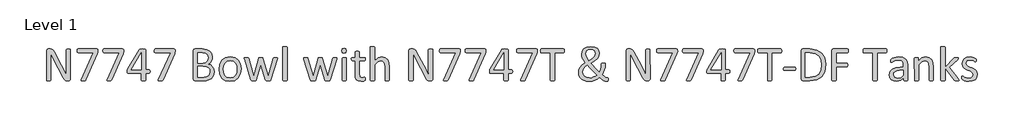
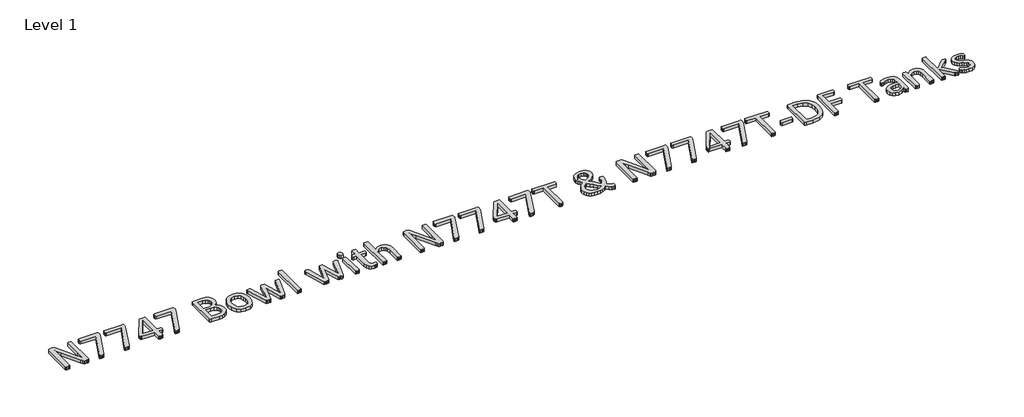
# One storey, part 1 of 3: 1 proxy.
"""IFC4 building model written with IfcOpenShell, lengths in millimetres."""

from ifc_helpers import new_model, si_unit, origin, origin_with_axes, place, context, project, spatial, polyline, outline, extrude, element, save

model = new_model("IFC4")

# Units and contexts
model_context = context("Model", 3, world=origin())
ifc_project = project(units=[si_unit("LENGTHUNIT", "METRE", prefix="MILLI")], contexts=[model_context])

# Site, building, storey
site = spatial("IfcSite", under=ifc_project)
building = spatial("IfcBuilding", under=site)
storey = spatial("IfcBuildingStorey", under=building, Name="Level 1", Elevation=0.0)

# Proxy
placement = place(None, origin())
element("IfcBuildingElementProxy", 1, Name="150MM CALIBRI", ObjectType="150MM CALIBRI", at=placement, inside=storey, context=model_context, shape_type="SweptSolid", body=[
    extrude(outline(polyline([(13422.4142778, -15617.8285664), (13421.6298259, -15621.7059998), (13419.5902511, -15624.3507231), (13416.7662245, -15625.8523881), (13413.6732429, -15626.3006463), (13407.0390216, -15626.3006463), (13401.5926845, -15625.6506719), (13397.1549284, -15623.2749034), (13392.9637143, -15618.5906053), (13388.5707839, -15611.1495192), (13344.1932224, -15526.697675), (13337.2003946, -15512.9809741), (13330.6109991, -15499.0401442), (13330.6109991, -15515.8946524), (13330.6109991, -15533.0181155), (13330.6109991, -15622.6249291), (13330.1179151, -15624.1714198), (13328.4593597, -15625.3144782), (13325.3887911, -15626.0092784), (13320.5251897, -15626.3006463), (13315.6391753, -15626.0092784), (13312.6134325, -15625.3144782), (13311.0221159, -15624.1714198), (13310.5290319, -15622.6249291), (13310.5290319, -15485.5923983), (13313.1737552, -15479.0702416), (13318.956286, -15477.1203184), (13328.8627921, -15477.1203184), (13334.7125616, -15477.7030541), (13338.9261886, -15479.5857385), (13342.5346671, -15483.2390428), (13346.1207327, -15489.1336381), (13380.1883556, -15554.3552057), (13386.2846671, -15566.0099188), (13391.9103075, -15577.1939608), (13397.2894059, -15588.0418092), (13402.5564397, -15598.777593), (13402.3995493, -15579.9507487), (13402.3323106, -15561.1239045), (13402.3323106, -15480.7960356), (13404.4839499, -15478.0840735), (13407.5545186, -15477.3444475), (13412.5525974, -15477.1203184), (13417.2593085, -15477.3444475), (13420.3298772, -15478.0840735), (13421.9211938, -15479.2943707), (13422.4142778, -15617.8285664)])), origin_with_axes(), (0.0, 0.0, 1.0), 15.0),
    extrude(outline(polyline([(13551.5126384, -15485.5475725), (13551.3333352, -15489.2681155), (13550.862664, -15492.4731616), (13550.0557993, -15495.4316657), (13548.8679151, -15498.4574086), (13494.9872798, -15621.8180643), (13493.5528536, -15624.0593553), (13491.3563884, -15625.4265428), (13487.9496261, -15626.121343), (13482.8843085, -15626.3006463), (13476.7431712, -15625.9644526), (13473.560538, -15624.86622), (13472.6864345, -15623.0283614), (13473.5157122, -15620.4284639), (13530.1307224, -15494.3334332), (13458.3645852, -15494.3334332), (13455.0698874, -15492.0473164), (13453.9716548, -15485.68205), (13454.2630227, -15481.8942682), (13455.1371261, -15479.2271319), (13456.5267265, -15477.6358153), (13458.3645852, -15477.1203184), (13545.5059786, -15477.1203184), (13548.3300052, -15477.456512), (13550.1902768, -15478.8236995), (13551.1764448, -15481.44601), (13551.5126384, -15485.5475725)])), origin_with_axes(), (0.0, 0.0, 1.0), 15.0),
    extrude(outline(polyline([(13672.0044417, -15485.5475725), (13671.8251384, -15489.2681155), (13671.3544673, -15492.4731616), (13670.5476026, -15495.4316657), (13669.3597184, -15498.4574086), (13615.4790831, -15621.8180643), (13614.0446569, -15624.0593553), (13611.8481917, -15625.4265428), (13608.4414294, -15626.121343), (13603.3761118, -15626.3006463), (13597.2349745, -15625.9644526), (13594.0523413, -15624.86622), (13593.1782378, -15623.0283614), (13594.0075155, -15620.4284639), (13650.6225257, -15494.3334332), (13578.8563884, -15494.3334332), (13575.5616907, -15492.0473164), (13574.4634581, -15485.68205), (13574.7548259, -15481.8942682), (13575.6289294, -15479.2271319), (13577.0185298, -15477.6358153), (13578.8563884, -15477.1203184), (13665.9977819, -15477.1203184), (13668.8218085, -15477.456512), (13670.68208, -15478.8236995), (13671.6682481, -15481.44601), (13672.0044417, -15485.5475725)])), origin_with_axes(), (0.0, 0.0, 1.0), 15.0),
    extrude(outline(polyline([(13796.4409171, -15583.2678594), (13795.2754458, -15589.565887), (13792.0479868, -15591.8744168), (13775.2831302, -15591.8744168), (13775.2831302, -15622.7594065), (13774.8124591, -15624.3283102), (13773.1314909, -15625.4041299), (13769.9936835, -15626.0765172), (13765.0628434, -15626.3006463), (13760.2664806, -15626.0765172), (13757.195912, -15625.4041299), (13755.6270083, -15624.3283102), (13755.201163, -15622.7594065), (13755.201163, -15591.8744168), (13694.4621774, -15591.8744168), (13692.1760606, -15591.5158102), (13690.5399181, -15590.1934485), (13689.5089243, -15587.4366606), (13689.2175565, -15582.7747754), (13689.329621, -15578.6956258), (13689.7778792, -15575.400928), (13690.6968085, -15572.5320756), (13692.0415831, -15569.5959844), (13744.9808761, -15480.6167323), (13746.6842573, -15479.0478286), (13749.5979356, -15477.9271832), (13753.9908659, -15477.2996217), (13760.1320032, -15477.1203184), (13766.9455278, -15477.4116862), (13771.6298259, -15478.1513123), (13774.341788, -15479.3391965), (13775.2831302, -15481.0649905), (13775.2831302, -15574.661302), (13792.0479868, -15574.661302), (13795.23062, -15576.7905284), (13796.4409171, -15583.2678594)]), holes=[polyline([(13755.201163, -15494.378259), (13707.237536, -15574.661302), (13755.201163, -15574.661302), (13755.201163, -15494.378259)])]), origin_with_axes(), (0.0, 0.0, 1.0), 15.0),
    extrude(outline(polyline([(13912.9880483, -15485.5475725), (13912.808745, -15489.2681155), (13912.3380739, -15492.4731616), (13911.5312091, -15495.4316657), (13910.3433249, -15498.4574086), (13856.4626897, -15621.8180643), (13855.0282634, -15624.0593553), (13852.8317983, -15625.4265428), (13849.425036, -15626.121343), (13844.3597184, -15626.3006463), (13838.2185811, -15625.9644526), (13835.0359479, -15624.86622), (13834.1618444, -15623.0283614), (13834.991122, -15620.4284639), (13891.6061323, -15494.3334332), (13819.839995, -15494.3334332), (13816.5452972, -15492.0473164), (13815.4470647, -15485.68205), (13815.7384325, -15481.8942682), (13816.612536, -15479.2271319), (13818.0021364, -15477.6358153), (13819.839995, -15477.1203184), (13906.9813884, -15477.1203184), (13909.8054151, -15477.456512), (13911.6656866, -15478.8236995), (13912.6518546, -15481.44601), (13912.9880483, -15485.5475725)])), origin_with_axes(), (0.0, 0.0, 1.0), 15.0),
    extrude(outline(polyline([(14096.5946056, -15584.11955), (14094.8239858, -15596.8949086), (14089.8483198, -15607.4289762), (14082.1382788, -15615.6096883), (14071.9628177, -15621.5266965), (14059.8374335, -15625.112762), (14045.044913, -15626.3006463), (14006.3602306, -15626.3006463), (14001.4069776, -15624.5076135), (13999.053622, -15618.2319987), (13999.053622, -15485.1889659), (14001.4293905, -15478.9133512), (14006.4498823, -15477.1203184), (14040.338202, -15477.1203184), (14062.2804407, -15479.697803), (14076.5126384, -15487.1837149), (14085.0967829, -15499.2418604), (14087.9880483, -15515.4015684), (14086.7105124, -15525.689094), (14082.9675565, -15534.7663225), (14076.7367675, -15542.2074086), (14068.1302102, -15547.5865069), (14079.2470134, -15551.7328952), (14088.2570032, -15559.4205233), (14094.3533147, -15570.3356104), (14096.5946056, -15584.11955)]), holes=[polyline([(14067.9060811, -15518.0911176), (14066.4044161, -15508.1846114), (14061.697705, -15500.6762866), (14053.3152768, -15495.9695756), (14039.6209888, -15494.3334332), (14019.1355893, -15494.3334332), (14019.1355893, -15543.103925), (14041.6829765, -15543.103925), (14054.0997286, -15541.0643502), (14061.9218341, -15535.5956002), (14066.4716548, -15527.5717784), (14067.9060811, -15518.0911176)]), polyline([(14076.5126384, -15584.2988532), (14074.4058249, -15572.7337918), (14068.2422747, -15564.3513635), (14058.0668136, -15559.1963942), (14042.6691446, -15557.4481873), (14019.1355893, -15557.4481873), (14019.1355893, -15609.0875315), (14047.6896364, -15609.0875315), (14059.478827, -15607.4962149), (14068.3319263, -15602.7895039), (14074.3385862, -15595.034637), (14076.5126384, -15584.2988532)])]), origin_with_axes(), (0.0, 0.0, 1.0), 15.0),
    extrude(outline(polyline([(14222.8241138, -15570.6718041), (14219.5070032, -15594.1829465), (14209.5780841, -15612.69601), (14193.0373567, -15624.8213942), (14170.0192983, -15629.1694987), (14147.8305175, -15625.3368911), (14132.051829, -15614.197675), (14122.6384069, -15596.4466504), (14119.5454253, -15572.7786176), (14122.8177102, -15549.2674752), (14132.6793905, -15530.7768245), (14149.1528792, -15518.7186791), (14172.2157634, -15514.4154004), (14194.4269571, -15518.2480079), (14210.2056456, -15529.3872241), (14219.6638936, -15547.1382487), (14222.8241138, -15570.6718041)]), holes=[polyline([(14202.7421466, -15572.0165786), (14201.1956559, -15556.4396063), (14196.1079253, -15543.5745961), (14186.5376128, -15534.8335612), (14171.4537245, -15531.6285151), (14157.1318751, -15534.5646063), (14147.2701948, -15542.8573829), (14141.510077, -15555.5430899), (14139.6273925, -15571.5683204), (14141.1738833, -15587.2349444), (14146.3064397, -15600.0551289), (14155.9439909, -15608.7513379), (14171.0054663, -15611.956384), (14185.2824899, -15609.0202928), (14195.2114089, -15600.7947549), (14200.9267009, -15588.1538737), (14202.7421466, -15572.0165786)])]), origin_with_axes(), (0.0, 0.0, 1.0), 15.0),
    extrude(outline(polyline([(14393.2967061, -15520.5565377), (14393.072577, -15522.5064608), (14392.2657122, -15525.3080745), (14361.8289806, -15622.2214967), (14360.7307481, -15624.2610715), (14358.6687604, -15625.4937815), (14355.0602819, -15626.121343), (14349.322577, -15626.3006463), (14343.33833, -15626.0765172), (14339.5057224, -15625.4041299), (14337.376496, -15624.1938327), (14336.3230893, -15622.3111483), (14314.6273925, -15549.8277979), (14294.2764704, -15622.3111483), (14293.2006507, -15624.3058973), (14290.9593597, -15625.5386073), (14287.1267522, -15626.1437559), (14281.3218085, -15626.3006463), (14275.494452, -15626.0765172), (14271.8187347, -15625.4041299), (14269.7119212, -15624.1490069), (14268.6809274, -15622.2214967), (14238.4683249, -15525.3080745), (14237.6614602, -15522.5064608), (14237.4373311, -15520.5565377), (14237.8855893, -15518.9428082), (14239.43208, -15517.9118143), (14242.3681712, -15517.3963174), (14246.8507532, -15517.2842528), (14252.0281354, -15517.4635561), (14255.0090524, -15518.0238789), (14256.4883044, -15519.1445243), (14257.2951692, -15520.9151442), (14282.2183249, -15605.1876852), (14305.5277511, -15520.9151442), (14306.312203, -15519.1445243), (14307.8586938, -15518.0238789), (14310.6603075, -15517.4635561), (14315.0756507, -15517.2842528), (14319.6254714, -15517.4635561), (14322.4270852, -15518.0238789), (14323.9287501, -15519.0996985), (14324.6235503, -15520.6910151), (14349.322577, -15605.1876852), (14374.2457327, -15520.9151442), (14374.9853587, -15519.1445243), (14376.5990882, -15518.0238789), (14379.5800052, -15517.4635561), (14384.4660196, -15517.2842528), (14388.8813628, -15517.3963174), (14391.5260862, -15517.9566401), (14392.8932737, -15518.987634), (14393.2967061, -15520.5565377)])), origin_with_axes(), (0.0, 0.0, 1.0), 15.0),
    extrude(outline(polyline([(14437.9880483, -15622.7594065), (14437.4949643, -15624.2834844), (14435.9036477, -15625.381717), (14432.8779048, -15626.0765172), (14427.9022388, -15626.3006463), (14423.0162245, -15626.0765172), (14419.9232429, -15625.381717), (14418.3319263, -15624.2834844), (14418.3319263, -15469.3206258), (14418.3319263, -15467.7068963), (14419.9232429, -15466.5638379), (14423.0162245, -15465.8690377), (14427.9022388, -15465.6449086), (14432.8779048, -15465.8690377), (14435.9036477, -15466.5638379), (14437.4949643, -15467.7068963), (14437.9880483, -15469.3206258), (14437.9880483, -15622.7594065)])), origin_with_axes(), (0.0, 0.0, 1.0), 15.0),
    extrude(outline(polyline([(14671.5753946, -15520.5565377), (14671.3512655, -15522.5064608), (14670.5444007, -15525.3080745), (14640.1076692, -15622.2214967), (14639.0094366, -15624.2610715), (14636.9474489, -15625.4937815), (14633.3389704, -15626.121343), (14627.6012655, -15626.3006463), (14621.6170186, -15626.0765172), (14617.784411, -15625.4041299), (14615.6551845, -15624.1938327), (14614.6017778, -15622.3111483), (14592.9060811, -15549.8277979), (14572.5551589, -15622.3111483), (14571.4793393, -15624.3058973), (14569.2380483, -15625.5386073), (14565.4054407, -15626.1437559), (14559.600497, -15626.3006463), (14553.7731405, -15626.0765172), (14550.0974233, -15625.4041299), (14547.9906097, -15624.1490069), (14546.9596159, -15622.2214967), (14516.7470134, -15525.3080745), (14515.9401487, -15522.5064608), (14515.7160196, -15520.5565377), (14516.1642778, -15518.9428082), (14517.7107686, -15517.9118143), (14520.6468597, -15517.3963174), (14525.1294417, -15517.2842528), (14530.3068239, -15517.4635561), (14533.2877409, -15518.0238789), (14534.7669929, -15519.1445243), (14535.5738577, -15520.9151442), (14560.4970134, -15605.1876852), (14583.8064397, -15520.9151442), (14584.5908915, -15519.1445243), (14586.1373823, -15518.0238789), (14588.938996, -15517.4635561), (14593.3543393, -15517.2842528), (14597.9041599, -15517.4635561), (14600.7057737, -15518.0238789), (14602.2074386, -15519.0996985), (14602.9022388, -15520.6910151), (14627.6012655, -15605.1876852), (14652.5244212, -15520.9151442), (14653.2640472, -15519.1445243), (14654.8777768, -15518.0238789), (14657.8586938, -15517.4635561), (14662.7447081, -15517.2842528), (14667.1600513, -15517.3963174), (14669.8047747, -15517.9566401), (14671.1719622, -15518.987634), (14671.5753946, -15520.5565377)])), origin_with_axes(), (0.0, 0.0, 1.0), 15.0),
    extrude(outline(polyline([(14716.2667368, -15485.5923983), (14713.8013167, -15494.7592784), (14704.6568495, -15497.2022856), (14695.7365114, -15494.8265172), (14693.3159171, -15485.8613532), (14695.7813372, -15476.6944731), (14704.9258044, -15474.2514659), (14713.8461425, -15476.6272344), (14716.2667368, -15485.5923983)])), origin_with_axes(), (0.0, 0.0, 1.0), 15.0),
    extrude(outline(polyline([(14716.2667368, -15622.8042323), (14715.7736528, -15624.3283102), (14714.1823362, -15625.4041299), (14711.1565934, -15626.0765172), (14706.1809274, -15626.3006463), (14701.294913, -15626.0765172), (14698.2019315, -15625.4041299), (14696.6106149, -15624.3283102), (14696.1847696, -15520.7806668), (14698.2019315, -15518.1807692), (14701.294913, -15517.5083819), (14706.1809274, -15517.2842528), (14711.1565934, -15517.5083819), (14714.1823362, -15518.1807692), (14715.7736528, -15519.3238276), (14716.2667368, -15622.8042323)])), origin_with_axes(), (0.0, 0.0, 1.0), 15.0),
    extrude(outline(polyline([(14805.201163, -15615.9907077), (14804.7529048, -15621.5939352), (14803.3857173, -15624.6420909), (14800.6513423, -15626.4799495), (14796.504954, -15627.8919629), (14791.5517009, -15628.8108922), (14786.3294929, -15629.1694987), (14772.6800309, -15626.9954465), (14763.3786733, -15620.4284639), (14758.0892265, -15609.2892477), (14756.4306712, -15593.3536688), (14756.4306712, -15531.6285151), (14742.803622, -15531.6285151), (14740.1813116, -15529.9475469), (14739.2175565, -15524.5012098), (14739.4865114, -15521.1616862), (14740.1813116, -15518.8979823), (14741.32437, -15517.6428594), (14742.8932737, -15517.2842528), (14756.4306712, -15517.2842528), (14756.4306712, -15492.3162713), (14758.4478331, -15489.5818963), (14761.5408147, -15488.8198573), (14766.426829, -15488.5957282), (14771.402495, -15488.8198573), (14774.4282378, -15489.5818963), (14776.0195544, -15490.8146063), (14776.5126384, -15517.2842528), (14801.6150974, -15517.2842528), (14804.2598208, -15518.8979823), (14804.9770339, -15521.1616862), (14805.201163, -15524.5012098), (14804.214995, -15529.9475469), (14801.6150974, -15531.6285151), (14776.5126384, -15531.6285151), (14776.5126384, -15590.081384), (14779.4935554, -15606.4203952), (14783.6567534, -15610.5723868), (14790.1845134, -15611.956384), (14794.6446825, -15611.440887), (14798.1186835, -15610.3650674), (14800.740994, -15609.2668348), (14802.6909171, -15608.728925), (14804.9770339, -15612.3598164), (14805.201163, -15615.9907077)])), origin_with_axes(), (0.0, 0.0, 1.0), 15.0),
    extrude(outline(polyline([(14917.0864089, -15622.7594065), (14916.5933249, -15624.2834844), (14915.0020083, -15625.381717), (14911.9762655, -15626.0765172), (14907.0902511, -15626.3006463), (14902.1145852, -15626.0765172), (14899.0888423, -15625.4041299), (14897.4975257, -15624.3283102), (14897.0044417, -15622.7594065), (14897.0044417, -15562.8721114), (14895.68208, -15548.7968041), (14891.8494724, -15539.5850981), (14885.3273157, -15533.6680899), (14876.0707839, -15531.6285151), (14862.4661477, -15536.626594), (14848.2339499, -15551.30705), (14848.2339499, -15622.7594065), (14847.7408659, -15624.3283102), (14846.1495493, -15625.4041299), (14843.1238065, -15626.0765172), (14838.1481405, -15626.3006463), (14833.2621261, -15626.0765172), (14830.1691446, -15625.381717), (14828.577828, -15624.2834844), (14828.577828, -15469.3206258), (14828.577828, -15467.7068963), (14830.1691446, -15466.5638379), (14833.2621261, -15465.8690377), (14838.1481405, -15465.6449086), (14843.1238065, -15465.8690377), (14846.1495493, -15466.5638379), (14847.7408659, -15467.7293092), (14848.2339499, -15469.3206258), (14848.2339499, -15531.3595602), (14864.371245, -15518.5842016), (14880.7326692, -15514.4154004), (14897.8561323, -15517.9118143), (14909.0850001, -15527.2579977), (14915.2261374, -15540.9522856), (14917.0864089, -15559.9136073), (14917.0864089, -15622.7594065)])), origin_with_axes(), (0.0, 0.0, 1.0), 15.0),
    extrude(outline(polyline([(15120.7749335, -15617.8285664), (15119.9904817, -15621.7059998), (15117.9509069, -15624.3507231), (15115.1268802, -15625.8523881), (15112.0338987, -15626.3006463), (15105.3996774, -15626.3006463), (15099.9533403, -15625.6506719), (15095.5155841, -15623.2749034), (15091.32437, -15618.5906053), (15086.9314397, -15611.1495192), (15042.5538782, -15526.697675), (15035.5610503, -15512.9809741), (15028.9716548, -15499.0401442), (15028.9716548, -15515.8946524), (15028.9716548, -15533.0181155), (15028.9716548, -15622.6249291), (15028.4785708, -15624.1714198), (15026.8200155, -15625.3144782), (15023.7494468, -15626.0092784), (15018.8858454, -15626.3006463), (15013.9998311, -15626.0092784), (15010.9740882, -15625.3144782), (15009.3827716, -15624.1714198), (15008.8896876, -15622.6249291), (15008.8896876, -15485.5923983), (15011.534411, -15479.0702416), (15017.3169417, -15477.1203184), (15027.2234479, -15477.1203184), (15033.0732173, -15477.7030541), (15037.2868444, -15479.5857385), (15040.8953229, -15483.2390428), (15044.4813884, -15489.1336381), (15078.5490114, -15554.3552057), (15084.6453229, -15566.0099188), (15090.2709632, -15577.1939608), (15095.6500616, -15588.0418092), (15100.9170954, -15598.777593), (15100.760205, -15579.9507487), (15100.6929663, -15561.1239045), (15100.6929663, -15480.7960356), (15102.8446056, -15478.0840735), (15105.9151743, -15477.3444475), (15110.9132532, -15477.1203184), (15115.6199643, -15477.3444475), (15118.6905329, -15478.0840735), (15120.2818495, -15479.2943707), (15120.7749335, -15617.8285664)])), origin_with_axes(), (0.0, 0.0, 1.0), 15.0),
    extrude(outline(polyline([(15249.8732942, -15485.5475725), (15249.6939909, -15489.2681155), (15249.2233198, -15492.4731616), (15248.416455, -15495.4316657), (15247.2285708, -15498.4574086), (15193.3479356, -15621.8180643), (15191.9135093, -15624.0593553), (15189.7170442, -15625.4265428), (15186.3102819, -15626.121343), (15181.2449643, -15626.3006463), (15175.103827, -15625.9644526), (15171.9211938, -15624.86622), (15171.0470903, -15623.0283614), (15171.8763679, -15620.4284639), (15228.4913782, -15494.3334332), (15156.7252409, -15494.3334332), (15153.4305431, -15492.0473164), (15152.3323106, -15485.68205), (15152.6236784, -15481.8942682), (15153.4977819, -15479.2271319), (15154.8873823, -15477.6358153), (15156.7252409, -15477.1203184), (15243.8666343, -15477.1203184), (15246.690661, -15477.456512), (15248.5509325, -15478.8236995), (15249.5371005, -15481.44601), (15249.8732942, -15485.5475725)])), origin_with_axes(), (0.0, 0.0, 1.0), 15.0),
    extrude(outline(polyline([(15370.3650974, -15485.5475725), (15370.1857942, -15489.2681155), (15369.7151231, -15492.4731616), (15368.9082583, -15495.4316657), (15367.7203741, -15498.4574086), (15313.8397388, -15621.8180643), (15312.4053126, -15624.0593553), (15310.2088474, -15625.4265428), (15306.8020852, -15626.121343), (15301.7367675, -15626.3006463), (15295.5956302, -15625.9644526), (15292.412997, -15624.86622), (15291.5388936, -15623.0283614), (15292.3681712, -15620.4284639), (15348.9831815, -15494.3334332), (15277.2170442, -15494.3334332), (15273.9223464, -15492.0473164), (15272.8241138, -15485.68205), (15273.1154817, -15481.8942682), (15273.9895852, -15479.2271319), (15275.3791856, -15477.6358153), (15277.2170442, -15477.1203184), (15364.3584376, -15477.1203184), (15367.1824643, -15477.456512), (15369.0427358, -15478.8236995), (15370.0289038, -15481.44601), (15370.3650974, -15485.5475725)])), origin_with_axes(), (0.0, 0.0, 1.0), 15.0),
    extrude(outline(polyline([(15494.8015729, -15583.2678594), (15493.6361015, -15589.565887), (15490.4086425, -15591.8744168), (15473.643786, -15591.8744168), (15473.643786, -15622.7594065), (15473.1731149, -15624.3283102), (15471.4921466, -15625.4041299), (15468.3543393, -15626.0765172), (15463.4234991, -15626.3006463), (15458.6271364, -15626.0765172), (15455.5565677, -15625.4041299), (15453.987664, -15624.3283102), (15453.5618188, -15622.7594065), (15453.5618188, -15591.8744168), (15392.8228331, -15591.8744168), (15390.5367163, -15591.5158102), (15388.9005739, -15590.1934485), (15387.86958, -15587.4366606), (15387.5782122, -15582.7747754), (15387.6902768, -15578.6956258), (15388.1385349, -15575.400928), (15389.0574643, -15572.5320756), (15390.4022388, -15569.5959844), (15443.3415319, -15480.6167323), (15445.044913, -15479.0478286), (15447.9585913, -15477.9271832), (15452.3515216, -15477.2996217), (15458.4926589, -15477.1203184), (15465.3061835, -15477.4116862), (15469.9904817, -15478.1513123), (15472.7024438, -15479.3391965), (15473.643786, -15481.0649905), (15473.643786, -15574.661302), (15490.4086425, -15574.661302), (15493.5912757, -15576.7905284), (15494.8015729, -15583.2678594)]), holes=[polyline([(15453.5618188, -15494.378259), (15405.5981917, -15574.661302), (15453.5618188, -15574.661302), (15453.5618188, -15494.378259)])]), origin_with_axes(), (0.0, 0.0, 1.0), 15.0),
    extrude(outline(polyline([(15611.348704, -15485.5475725), (15611.1694007, -15489.2681155), (15610.6987296, -15492.4731616), (15609.8918649, -15495.4316657), (15608.7039806, -15498.4574086), (15554.8233454, -15621.8180643), (15553.3889192, -15624.0593553), (15551.192454, -15625.4265428), (15547.7856917, -15626.121343), (15542.7203741, -15626.3006463), (15536.5792368, -15625.9644526), (15533.3966036, -15624.86622), (15532.5225001, -15623.0283614), (15533.3517778, -15620.4284639), (15589.966788, -15494.3334332), (15518.2006507, -15494.3334332), (15514.905953, -15492.0473164), (15513.8077204, -15485.68205), (15514.0990882, -15481.8942682), (15514.9731917, -15479.2271319), (15516.3627921, -15477.6358153), (15518.2006507, -15477.1203184), (15605.3420442, -15477.1203184), (15608.1660708, -15477.456512), (15610.0263423, -15478.8236995), (15611.0125104, -15481.44601), (15611.348704, -15485.5475725)])), origin_with_axes(), (0.0, 0.0, 1.0), 15.0),
    extrude(outline(polyline([(15737.5782122, -15485.8613532), (15737.3540831, -15489.7387866), (15736.6144571, -15492.38351), (15735.3369212, -15493.862762), (15733.6783659, -15494.3334332), (15691.6765729, -15494.3334332), (15691.6765729, -15622.6249291), (15691.2059018, -15624.2386586), (15689.5697593, -15625.3144782), (15686.4767778, -15626.0092784), (15681.6355893, -15626.3006463), (15676.8392265, -15626.0092784), (15673.7014192, -15625.3144782), (15672.0652768, -15624.2386586), (15671.5946056, -15622.6249291), (15671.5946056, -15494.3334332), (15629.5928126, -15494.3334332), (15627.9342573, -15493.862762), (15626.7239602, -15492.38351), (15625.9843341, -15489.7387866), (15625.6929663, -15485.8613532), (15625.9843341, -15481.8942682), (15626.7463731, -15479.1150674), (15627.9566702, -15477.5909895), (15629.6376384, -15477.1203184), (15733.6335401, -15477.1203184), (15735.3145083, -15477.5909895), (15736.5920442, -15479.1150674), (15737.3540831, -15481.8942682), (15737.5782122, -15485.8613532)])), origin_with_axes(), (0.0, 0.0, 1.0), 15.0),
    extrude(outline(polyline([(15804.503161, -15586.3608409), (15806.228955, -15573.921676), (15811.6304663, -15562.491092), (15821.2231917, -15551.7553082), (15835.5226282, -15541.3108922), (15827.6332839, -15529.6561791), (15822.2317727, -15519.8841504), (15819.1836169, -15511.2327672), (15818.2646876, -15502.9399905), (15820.6852819, -15488.8198573), (15828.4401487, -15476.9186022), (15842.1568495, -15468.6930643), (15862.5077716, -15465.6449086), (15880.0122542, -15467.9086125), (15892.3169417, -15474.3411176), (15899.6683761, -15484.426927), (15902.1337962, -15497.605718), (15899.959744, -15510.4707282), (15892.9445032, -15521.7892477), (15880.5949899, -15532.7043348), (15862.3732942, -15544.090093), (15870.867787, -15554.2655541), (15880.4605124, -15564.9340991), (15890.7032122, -15575.4905797), (15900.9683249, -15585.4194987), (15905.1371261, -15578.2921934), (15908.3421722, -15569.8649393), (15910.4041599, -15560.7877108), (15911.0989602, -15551.4415274), (15911.0989602, -15547.2727262), (15911.5023925, -15545.3676289), (15912.8247542, -15544.090093), (15915.5143034, -15543.3280541), (15920.1537757, -15543.103925), (15924.4794673, -15543.2159895), (15927.3931456, -15543.7314864), (15929.0517009, -15545.0090223), (15929.5671979, -15547.4072036), (15929.5671979, -15550.3208819), (15928.4913782, -15563.1186534), (15925.5104612, -15575.400928), (15920.8037501, -15586.853925), (15914.5505483, -15596.9845602), (15923.560538, -15604.1118655), (15930.1051077, -15608.7513379), (15934.5876897, -15611.2391709), (15937.5013679, -15611.956384), (15939.6978331, -15611.8443194), (15941.3563884, -15612.202926), (15942.3201436, -15614.1304362), (15942.6563372, -15618.5906053), (15942.5442727, -15623.386968), (15942.1632532, -15626.0989301), (15941.1994981, -15627.6230079), (15938.6668393, -15628.6988276), (15933.8256507, -15629.1694987), (15928.782746, -15628.3402211), (15922.3502409, -15625.4041299), (15913.7885093, -15619.6888379), (15902.3579253, -15610.5667836), (15892.1824643, -15618.0751084), (15880.819119, -15623.9921166), (15868.1782378, -15627.8023112), (15853.9012143, -15629.1694987), (15840.1621005, -15627.86955), (15828.1711938, -15624.1041811), (15818.2871005, -15617.9630438), (15810.8684274, -15609.5806155), (15806.1617163, -15599.024135), (15804.503161, -15586.3608409)]), holes=[polyline([(15838.3914806, -15500.2504414), (15839.2431712, -15507.0639659), (15841.8878946, -15514.2809229), (15846.258412, -15522.3719834), (15852.3771364, -15532.0319475), (15866.4524438, -15522.708177), (15875.596911, -15514.4826391), (15880.5949899, -15506.5708819), (15882.1414806, -15498.1436278), (15880.9311835, -15491.2852774), (15877.076163, -15485.4803338), (15870.4195288, -15481.4684229), (15860.7595647, -15479.9891709), (15850.5168649, -15481.6477262), (15843.6136886, -15486.1078952), (15839.6466036, -15492.6076391), (15838.3914806, -15500.2504414)]), polyline([(15825.0333864, -15584.0747241), (15827.0505483, -15595.303592), (15832.9675565, -15604.1118655), (15842.7395852, -15609.8943963), (15856.2769827, -15611.956384), (15865.4886886, -15610.9926289), (15874.0280073, -15608.3479055), (15881.7828741, -15604.3359946), (15888.5963987, -15599.3603286), (15876.6727306, -15588.2211125), (15865.2421466, -15576.6112252), (15854.6184274, -15564.978925), (15845.2498311, -15553.7276442), (15835.6795186, -15561.2135561), (15829.4935554, -15568.6546422), (15826.0867931, -15576.162967), (15825.0333864, -15584.0747241)])]), origin_with_axes(), (0.0, 0.0, 1.0), 15.0),
    extrude(outline(polyline([(16139.2175565, -15617.8285664), (16138.4331046, -15621.7059998), (16136.3935298, -15624.3507231), (16133.5695032, -15625.8523881), (16130.4765216, -15626.3006463), (16123.8423003, -15626.3006463), (16118.3959632, -15625.6506719), (16113.9582071, -15623.2749034), (16109.7669929, -15618.5906053), (16105.3740626, -15611.1495192), (16060.9965011, -15526.697675), (16054.0036733, -15512.9809741), (16047.4142778, -15499.0401442), (16047.4142778, -15515.8946524), (16047.4142778, -15533.0181155), (16047.4142778, -15622.6249291), (16046.9211938, -15624.1714198), (16045.2626384, -15625.3144782), (16042.1920698, -15626.0092784), (16037.3284684, -15626.3006463), (16032.442454, -15626.0092784), (16029.4167112, -15625.3144782), (16027.8253946, -15624.1714198), (16027.3323106, -15622.6249291), (16027.3323106, -15485.5923983), (16029.9770339, -15479.0702416), (16035.7595647, -15477.1203184), (16045.6660708, -15477.1203184), (16051.5158403, -15477.7030541), (16055.7294673, -15479.5857385), (16059.3379458, -15483.2390428), (16062.9240114, -15489.1336381), (16096.9916343, -15554.3552057), (16103.0879458, -15566.0099188), (16108.7135862, -15577.1939608), (16114.0926845, -15588.0418092), (16119.3597184, -15598.777593), (16119.202828, -15579.9507487), (16119.1355893, -15561.1239045), (16119.1355893, -15480.7960356), (16121.2872286, -15478.0840735), (16124.3577972, -15477.3444475), (16129.3558761, -15477.1203184), (16134.0625872, -15477.3444475), (16137.1331559, -15478.0840735), (16138.7244724, -15479.2943707), (16139.2175565, -15617.8285664)])), origin_with_axes(), (0.0, 0.0, 1.0), 15.0),
    extrude(outline(polyline([(16268.3159171, -15485.5475725), (16268.1366138, -15489.2681155), (16267.6659427, -15492.4731616), (16266.859078, -15495.4316657), (16265.6711938, -15498.4574086), (16211.7905585, -15621.8180643), (16210.3561323, -15624.0593553), (16208.1596671, -15625.4265428), (16204.7529048, -15626.121343), (16199.6875872, -15626.3006463), (16193.5464499, -15625.9644526), (16190.3638167, -15624.86622), (16189.4897132, -15623.0283614), (16190.3189909, -15620.4284639), (16246.9340011, -15494.3334332), (16175.1678638, -15494.3334332), (16171.8731661, -15492.0473164), (16170.7749335, -15485.68205), (16171.0663013, -15481.8942682), (16171.9404048, -15479.2271319), (16173.3300052, -15477.6358153), (16175.1678638, -15477.1203184), (16262.3092573, -15477.1203184), (16265.1332839, -15477.456512), (16266.9935554, -15478.8236995), (16267.9797235, -15481.44601), (16268.3159171, -15485.5475725)])), origin_with_axes(), (0.0, 0.0, 1.0), 15.0),
    extrude(outline(polyline([(16388.8077204, -15485.5475725), (16388.6284171, -15489.2681155), (16388.157746, -15492.4731616), (16387.3508813, -15495.4316657), (16386.162997, -15498.4574086), (16332.2823618, -15621.8180643), (16330.8479356, -15624.0593553), (16328.6514704, -15625.4265428), (16325.2447081, -15626.121343), (16320.1793905, -15626.3006463), (16314.0382532, -15625.9644526), (16310.85562, -15624.86622), (16309.9815165, -15623.0283614), (16310.8107942, -15620.4284639), (16367.4258044, -15494.3334332), (16295.6596671, -15494.3334332), (16292.3649694, -15492.0473164), (16291.2667368, -15485.68205), (16291.5581046, -15481.8942682), (16292.4322081, -15479.2271319), (16293.8218085, -15477.6358153), (16295.6596671, -15477.1203184), (16382.8010606, -15477.1203184), (16385.6250872, -15477.456512), (16387.4853587, -15478.8236995), (16388.4715268, -15481.44601), (16388.8077204, -15485.5475725)])), origin_with_axes(), (0.0, 0.0, 1.0), 15.0),
    extrude(outline(polyline([(16513.2441958, -15583.2678594), (16512.0787245, -15589.565887), (16508.8512655, -15591.8744168), (16492.0864089, -15591.8744168), (16492.0864089, -15622.7594065), (16491.6157378, -15624.3283102), (16489.9347696, -15625.4041299), (16486.7969622, -15626.0765172), (16481.866122, -15626.3006463), (16477.0697593, -15626.0765172), (16473.9991907, -15625.4041299), (16472.430287, -15624.3283102), (16472.0044417, -15622.7594065), (16472.0044417, -15591.8744168), (16411.2654561, -15591.8744168), (16408.9793393, -15591.5158102), (16407.3431968, -15590.1934485), (16406.312203, -15587.4366606), (16406.0208352, -15582.7747754), (16406.1328997, -15578.6956258), (16406.5811579, -15575.400928), (16407.5000872, -15572.5320756), (16408.8448618, -15569.5959844), (16461.7841548, -15480.6167323), (16463.487536, -15479.0478286), (16466.4012143, -15477.9271832), (16470.7941446, -15477.2996217), (16476.9352819, -15477.1203184), (16483.7488065, -15477.4116862), (16488.4331046, -15478.1513123), (16491.1450667, -15479.3391965), (16492.0864089, -15481.0649905), (16492.0864089, -15574.661302), (16508.8512655, -15574.661302), (16512.0338987, -15576.7905284), (16513.2441958, -15583.2678594)]), holes=[polyline([(16472.0044417, -15494.378259), (16424.0408147, -15574.661302), (16472.0044417, -15574.661302), (16472.0044417, -15494.378259)])]), origin_with_axes(), (0.0, 0.0, 1.0), 15.0),
    extrude(outline(polyline([(16629.791327, -15485.5475725), (16629.6120237, -15489.2681155), (16629.1413526, -15492.4731616), (16628.3344878, -15495.4316657), (16627.1466036, -15498.4574086), (16573.2659684, -15621.8180643), (16571.8315421, -15624.0593553), (16569.635077, -15625.4265428), (16566.2283147, -15626.121343), (16561.162997, -15626.3006463), (16555.0218597, -15625.9644526), (16551.8392265, -15624.86622), (16550.9651231, -15623.0283614), (16551.7944007, -15620.4284639), (16608.409411, -15494.3334332), (16536.6432737, -15494.3334332), (16533.3485759, -15492.0473164), (16532.2503434, -15485.68205), (16532.5417112, -15481.8942682), (16533.4158147, -15479.2271319), (16534.8054151, -15477.6358153), (16536.6432737, -15477.1203184), (16623.7846671, -15477.1203184), (16626.6086938, -15477.456512), (16628.4689653, -15478.8236995), (16629.4551333, -15481.44601), (16629.791327, -15485.5475725)])), origin_with_axes(), (0.0, 0.0, 1.0), 15.0),
    extrude(outline(polyline([(16756.0208352, -15485.8613532), (16755.7967061, -15489.7387866), (16755.05708, -15492.38351), (16753.7795442, -15493.862762), (16752.1209888, -15494.3334332), (16710.1191958, -15494.3334332), (16710.1191958, -15622.6249291), (16709.6485247, -15624.2386586), (16708.0123823, -15625.3144782), (16704.9194007, -15626.0092784), (16700.0782122, -15626.3006463), (16695.2818495, -15626.0092784), (16692.1440421, -15625.3144782), (16690.5078997, -15624.2386586), (16690.0372286, -15622.6249291), (16690.0372286, -15494.3334332), (16648.0354356, -15494.3334332), (16646.3768802, -15493.862762), (16645.1665831, -15492.38351), (16644.4269571, -15489.7387866), (16644.1355893, -15485.8613532), (16644.4269571, -15481.8942682), (16645.188996, -15479.1150674), (16646.3992931, -15477.5909895), (16648.0802614, -15477.1203184), (16752.076163, -15477.1203184), (16753.7571313, -15477.5909895), (16755.0346671, -15479.1150674), (16755.7967061, -15481.8942682), (16756.0208352, -15485.8613532)])), origin_with_axes(), (0.0, 0.0, 1.0), 15.0),
    extrude(outline(polyline([(16822.0044417, -15570.3131975), (16820.9510349, -15575.9612508), (16817.8804663, -15577.5301545), (16768.8410196, -15577.5301545), (16765.6807993, -15575.916425), (16764.6273925, -15570.3131975), (16765.6807993, -15564.7547959), (16768.8410196, -15563.1858922), (16817.8804663, -15563.1858922), (16819.5838474, -15563.4996729), (16820.8837962, -15564.70997), (16821.7130739, -15566.951261), (16822.0044417, -15570.3131975)])), origin_with_axes(), (0.0, 0.0, 1.0), 15.0),
    extrude(outline(polyline([(16962.5782122, -15549.5140172), (16957.6249591, -15583.357511), (16951.5286477, -15596.5923343), (16943.1462194, -15607.3393245), (16919.7919673, -15621.5715223), (16886.822577, -15626.3006463), (16855.2203741, -15626.3006463), (16850.1774694, -15624.5076135), (16847.8241138, -15618.2319987), (16847.8241138, -15485.1889659), (16850.1774694, -15478.9133512), (16855.2203741, -15477.1203184), (16889.0190421, -15477.1203184), (16921.7643034, -15482.1408102), (16944.1996261, -15496.5523112), (16957.916327, -15519.3238276), (16962.5782122, -15549.5140172)]), holes=[polyline([(16942.496245, -15550.4105336), (16939.4705022, -15528.1321012), (16930.0122542, -15510.291425), (16913.6956559, -15498.5470602), (16888.2570032, -15494.3334332), (16867.9060811, -15494.3334332), (16867.9060811, -15609.0875315), (16888.4811323, -15609.0875315), (16912.7543136, -15605.5462918), (16929.2502153, -15594.7208563), (16939.1791343, -15576.4319219), (16942.496245, -15550.4105336)])]), origin_with_axes(), (0.0, 0.0, 1.0), 15.0),
    extrude(outline(polyline([(17068.7257532, -15485.8613532), (17068.5016241, -15489.7387866), (17067.7171722, -15492.38351), (17066.4172235, -15493.862762), (17064.8707327, -15494.3334332), (17011.348704, -15494.3334332), (17011.348704, -15543.103925), (17061.9122286, -15543.103925), (17063.4587194, -15543.5297702), (17064.7586681, -15544.9193707), (17065.54312, -15547.4968553), (17065.7672491, -15551.6656565), (17065.54312, -15555.5655028), (17064.7586681, -15558.2102262), (17063.4587194, -15559.7791299), (17061.9122286, -15560.3170397), (17011.348704, -15560.3170397), (17011.348704, -15622.6249291), (17010.8780329, -15624.1714198), (17009.2418905, -15625.3144782), (17006.2161477, -15626.0092784), (17001.3077204, -15626.3006463), (16996.5113577, -15626.0092784), (16993.3735503, -15625.3144782), (16991.7374079, -15624.1714198), (16991.2667368, -15622.6249291), (16991.2667368, -15485.1441401), (16993.5976794, -15478.8909383), (16998.5733454, -15477.1203184), (17064.8707327, -15477.1203184), (17067.6947593, -15479.1150674), (17068.5016241, -15481.8942682), (17068.7257532, -15485.8613532)])), origin_with_axes(), (0.0, 0.0, 1.0), 15.0),
    extrude(outline(polyline([(17249.4634581, -15485.8613532), (17249.239329, -15489.7387866), (17248.499703, -15492.38351), (17247.2221671, -15493.862762), (17245.5636118, -15494.3334332), (17203.5618188, -15494.3334332), (17203.5618188, -15622.6249291), (17203.0911477, -15624.2386586), (17201.4550052, -15625.3144782), (17198.3620237, -15626.0092784), (17193.5208352, -15626.3006463), (17188.7244724, -15626.0092784), (17185.5866651, -15625.3144782), (17183.9505227, -15624.2386586), (17183.4798515, -15622.6249291), (17183.4798515, -15494.3334332), (17141.4780585, -15494.3334332), (17139.8195032, -15493.862762), (17138.6092061, -15492.38351), (17137.86958, -15489.7387866), (17137.5782122, -15485.8613532), (17137.86958, -15481.8942682), (17138.631619, -15479.1150674), (17139.8419161, -15477.5909895), (17141.5228843, -15477.1203184), (17245.518786, -15477.1203184), (17247.1997542, -15477.5909895), (17248.4772901, -15479.1150674), (17249.239329, -15481.8942682), (17249.4634581, -15485.8613532)])), origin_with_axes(), (0.0, 0.0, 1.0), 15.0),
    extrude(outline(polyline([(17347.0044417, -15622.8490582), (17346.0182737, -15624.9334588), (17343.3287245, -15625.9644526), (17338.3082327, -15626.3006463), (17333.2205022, -15625.9644526), (17330.4637143, -15624.9334588), (17329.6120237, -15622.8490582), (17329.6120237, -15612.5391196), (17314.5057224, -15624.4627877), (17296.8443495, -15629.1694987), (17282.0294161, -15627.0402723), (17270.7557224, -15620.8767221), (17263.5163526, -15610.9702159), (17260.9388679, -15597.6121217), (17264.5025206, -15582.4161688), (17274.7228075, -15571.7027979), (17291.0169929, -15565.3151186), (17312.7126897, -15563.1858922), (17326.9224745, -15563.1858922), (17326.9224745, -15554.6241606), (17325.6673515, -15543.4177057), (17321.6330278, -15535.3042323), (17314.4384837, -15530.418218), (17303.5682224, -15528.7596627), (17291.1290575, -15530.5526954), (17281.4915063, -15534.4973676), (17274.5659171, -15538.4420397), (17270.4419417, -15540.2350725), (17268.8282122, -15539.7644014), (17267.640328, -15538.3299752), (17266.900702, -15535.8645551), (17266.6765729, -15532.5698573), (17267.0800052, -15527.8631463), (17269.0523413, -15524.5684485), (17274.4314397, -15521.206512), (17283.2173003, -15517.8894014), (17294.0875616, -15515.4015684), (17305.9888167, -15514.4154004), (17325.0397901, -15516.9480592), (17337.7479099, -15524.3443194), (17344.8079765, -15536.4248778), (17347.0044417, -15553.279386), (17347.0044417, -15622.8490582)]), holes=[polyline([(17326.9224745, -15577.5301545), (17310.9644827, -15577.5301545), (17297.6512143, -15578.8525161), (17288.260205, -15582.7523625), (17282.7690421, -15588.9383256), (17281.0208352, -15597.2535151), (17286.041327, -15610.0736995), (17300.1166343, -15614.8252364), (17313.7436835, -15611.0374547), (17326.9224745, -15599.4499803), (17326.9224745, -15577.5301545)])]), origin_with_axes(), (0.0, 0.0, 1.0), 15.0),
    extrude(outline(polyline([(17467.496245, -15622.7594065), (17467.003161, -15624.2834844), (17465.4118444, -15625.381717), (17462.3861015, -15626.0765172), (17457.5000872, -15626.3006463), (17452.5244212, -15626.0765172), (17449.4986784, -15625.4041299), (17447.9073618, -15624.3283102), (17447.4142778, -15622.7594065), (17447.4142778, -15562.8721114), (17446.0919161, -15548.7968041), (17442.2593085, -15539.5850981), (17435.7371518, -15533.6680899), (17426.48062, -15531.6285151), (17412.8759837, -15536.626594), (17398.643786, -15551.30705), (17398.643786, -15622.7594065), (17398.150702, -15624.3283102), (17396.5593854, -15625.4041299), (17393.5336425, -15626.0765172), (17388.5579765, -15626.3006463), (17383.6719622, -15626.0765172), (17380.5789806, -15625.4041299), (17378.987664, -15624.3283102), (17378.5618188, -15520.7806668), (17380.3772645, -15518.1359434), (17383.1788782, -15517.4635561), (17387.706286, -15517.2842528), (17392.1440421, -15517.4635561), (17394.8784171, -15518.1359434), (17396.2904304, -15519.2565889), (17396.7162757, -15534.2732385), (17413.8621518, -15519.1893502), (17431.0976794, -15514.4154004), (17448.2211425, -15517.9118143), (17459.4724233, -15527.2579977), (17465.6359735, -15540.9522856), (17467.496245, -15559.8239557), (17467.496245, -15622.7594065)])), origin_with_axes(), (0.0, 0.0, 1.0), 15.0),
    extrude(outline(polyline([(17587.9880483, -15622.6697549), (17587.5173772, -15624.2610715), (17585.9708864, -15625.4041299), (17582.9451436, -15626.0765172), (17577.9918905, -15626.3006463), (17572.881747, -15626.121343), (17569.4749847, -15625.5610202), (17567.2336938, -15624.4403748), (17565.6647901, -15622.6697549), (17522.0044417, -15566.2340479), (17522.0044417, -15622.8042323), (17521.5113577, -15624.3283102), (17519.9200411, -15625.4041299), (17516.8942983, -15626.0765172), (17511.9186323, -15626.3006463), (17507.0326179, -15626.0765172), (17503.9396364, -15625.381717), (17502.3483198, -15624.2834844), (17502.3483198, -15469.3206258), (17502.3483198, -15467.7068963), (17503.9396364, -15466.5638379), (17507.0326179, -15465.8690377), (17511.9186323, -15465.6449086), (17516.8942983, -15465.8690377), (17519.9200411, -15466.5638379), (17521.5113577, -15467.7293092), (17522.0044417, -15469.3654516), (17522.0044417, -15563.6341504), (17561.8994212, -15521.228925), (17563.8941702, -15519.3686534), (17566.4044161, -15518.1359434), (17569.8560042, -15517.4635561), (17574.6747798, -15517.2842528), (17579.60562, -15517.4635561), (17582.8106661, -15518.0238789), (17584.581286, -15519.0324598), (17585.1191958, -15520.6910151), (17584.334744, -15523.4029772), (17581.7124335, -15526.5631975), (17542.0864089, -15563.4996729), (17585.1640216, -15617.3354823), (17587.3380739, -15620.4508768), (17587.9880483, -15622.6697549)])), origin_with_axes(), (0.0, 0.0, 1.0), 15.0),
    extrude(outline(polyline([(17674.053622, -15595.6397856), (17671.072705, -15609.9168092), (17662.5782122, -15620.4732897), (17649.4666599, -15626.9730336), (17632.7242163, -15629.1694987), (17621.9884325, -15628.1385049), (17612.8663782, -15625.5161944), (17606.0304407, -15622.1990838), (17601.9288782, -15619.0836893), (17600.0461938, -15615.7889916), (17599.4634581, -15610.5667836), (17599.6875872, -15607.1824342), (17600.2703229, -15604.9635561), (17606.4114602, -15605.1428594), (17612.5077716, -15609.0875315), (17621.0919161, -15613.0322036), (17632.4552614, -15614.8252364), (17641.1962962, -15613.7270039), (17647.9874079, -15610.4771319), (17652.425164, -15605.0083819), (17653.9716548, -15597.1638635), (17651.7527768, -15589.7451903), (17645.8581815, -15584.3885049), (17637.6326436, -15580.2645295), (17628.2192214, -15576.4991606), (17618.7385606, -15572.0389916), (17610.4457839, -15565.9426801), (17604.5511886, -15557.3585356), (17602.3323106, -15545.3900418), (17604.708079, -15533.6232641), (17611.8353843, -15523.7615838), (17623.7142265, -15516.9704721), (17640.3894315, -15514.4154004), (17648.7270339, -15515.1774393), (17656.2577716, -15517.1049495), (17661.9954765, -15519.6151954), (17665.5815421, -15521.9909639), (17667.1952716, -15523.694345), (17667.7780073, -15525.1735971), (17668.1366138, -15527.2131719), (17668.3159171, -15530.1940889), (17668.1366138, -15533.4439608), (17667.5538782, -15535.7076647), (17666.5452972, -15536.9852006), (17662.129954, -15535.9990325), (17656.907746, -15533.0629414), (17649.3770083, -15530.1268502), (17639.4929151, -15528.7596627), (17630.7070544, -15529.9027211), (17624.4762655, -15533.152593), (17620.8005483, -15538.128259), (17619.5454253, -15544.3590479), (17621.9211938, -15551.9570243), (17628.1295698, -15557.3585356), (17636.8481917, -15561.5273368), (17646.7995237, -15565.3375315), (17656.8180944, -15569.7528748), (17665.5815421, -15575.6698829), (17671.7226794, -15584.0298983), (17674.053622, -15595.6397856)])), origin_with_axes(), (0.0, 0.0, 1.0), 15.0),
])

save(model, "model.ifc")
